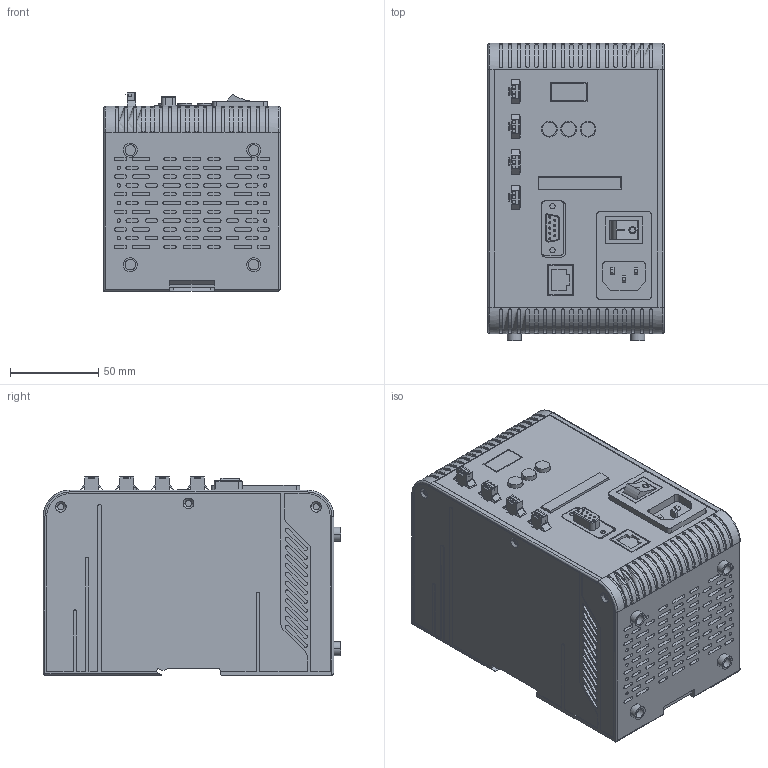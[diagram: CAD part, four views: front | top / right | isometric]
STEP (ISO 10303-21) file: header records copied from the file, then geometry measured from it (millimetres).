
FILE_DESCRIPTION((''),'2;1');
FILE_NAME('LS-LEVD-200-4-PY','2019-12-24T',('LumaSpec Vision'),('LumaSpec Vision'),'PRO/ENGINEER BY PARAMETRIC TECHNOLOGY CORPORATION, 2015240','PRO/ENGINEER BY PARAMETRIC TECHNOLOGY CORPORATION, 2015240','');
FILE_SCHEMA(('CONFIG_CONTROL_DESIGN'));
Products named in the file (3): 4T; RS232; ASM0001_ASM
Assembly tree (2 placements, depth 2):
  ASM0001_ASM
    4T
    RS232
Bounding box: 100 x 169 x 112.5 mm (x, y, z)
Volume: 1663667.1 mm3; surface area: 112578.7 mm2
Topology: 2 solids, 7 shells, 2164 faces, 5413 edges, 3560 vertices
Faces by surface type: plane 1382, cylinder 727, bspline 28, cone 20, torus 4, sphere 3
Entity records: 66003 total; most frequent: CARTESIAN_POINT 13287, DIRECTION 10852, ORIENTED_EDGE 10818, EDGE_CURVE 5409, VECTOR 3776, LINE 3776, VERTEX_POINT 3558, AXIS2_PLACEMENT_3D 3538
